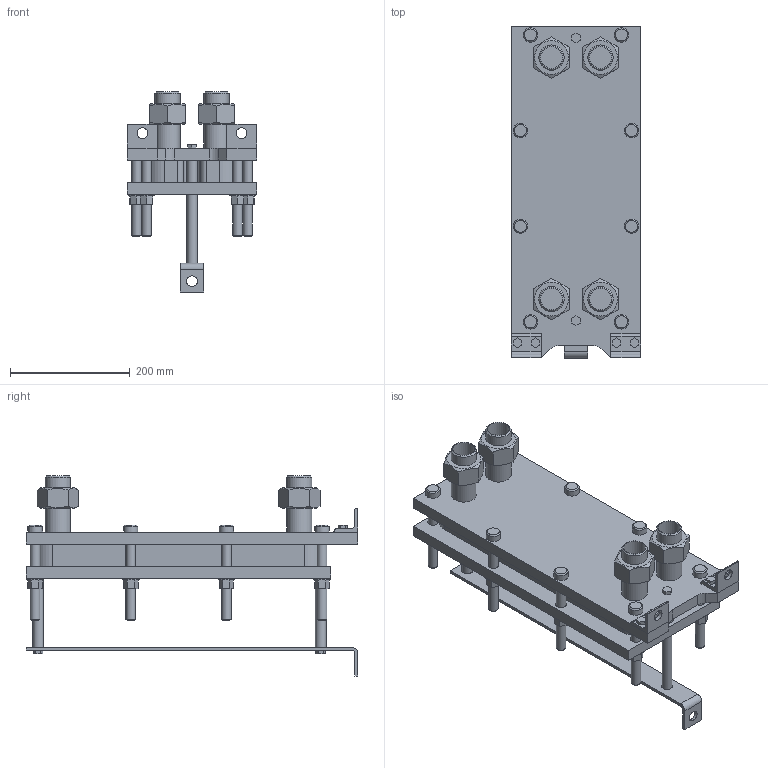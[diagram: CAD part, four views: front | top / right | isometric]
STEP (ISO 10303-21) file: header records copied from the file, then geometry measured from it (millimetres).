
FILE_DESCRIPTION(/* description */ (''),/* implementation_level */ '2;1');
FILE_NAME(/* name */ 'C:\Users\zhuro\Desktop\ENCO\TO\ЭН-004\ЭН-0,5-004-12-1.stp',/* time_stamp */ '2022-06-06T10:44:48+03:00',/* author */ ('zhuro'),/* organization */ (''),/* preprocessor_version */ 'ST-DEVELOPER v18.1',/* originating_system */ 'Autodesk Inventor 2022',/* authorisation */ '');
FILE_SCHEMA (('AUTOMOTIVE_DESIGN { 1 0 10303 214 3 1 1 }'));
Length unit declared in the file: millimetre
Products named in the file (1): ЭН-0,5-004-12-1
Bounding box: 216 x 555 x 334.6 mm (x, y, z)
Volume: 8235451.4 mm3; surface area: 1039722.8 mm2
Topology: 40 solids, 40 shells, 403 faces, 865 edges, 574 vertices
Faces by surface type: plane 272, cylinder 103, cone 28
Full cylindrical faces by diameter (mm): 10 x4, 16 x16, 18 x29, 20 x2, 24 x8, 28 x8, 36.3 x5, 42.3 x9
Entity records: 11137 total; most frequent: CARTESIAN_POINT 1939, DIRECTION 1879, ORIENTED_EDGE 1730, EDGE_CURVE 865, AXIS2_PLACEMENT_3D 658, VERTEX_POINT 574, LINE 563, VECTOR 563
